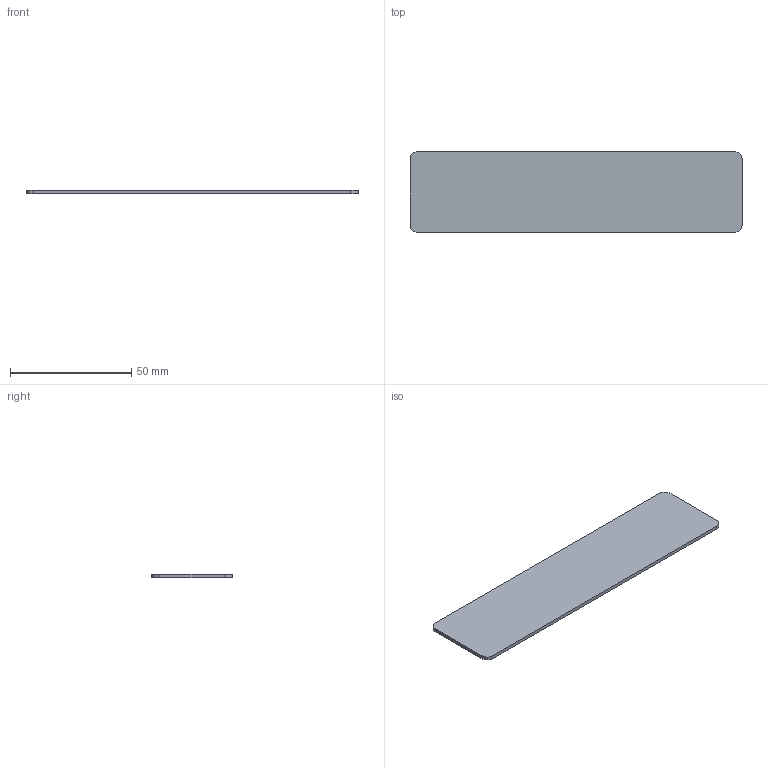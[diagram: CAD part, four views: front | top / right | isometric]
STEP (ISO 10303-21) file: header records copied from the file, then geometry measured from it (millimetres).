
FILE_DESCRIPTION(('Open CASCADE Model'),'2;1');
FILE_NAME('Open CASCADE Shape Model','2026-11-03T14:22:04',('Author'),( 'Open CASCADE'),'Open CASCADE STEP processor 8.0','build123d', 'Unknown');
FILE_SCHEMA(('AUTOMOTIVE_DESIGN { 1 0 10303 214 1 1 1 1 }'));
Length unit declared in the file: millimetre
Products named in the file (1): COMPOUND
Bounding box: 136.75 x 33.25 x 1.5 mm (x, y, z)
Volume: 6808.8 mm3; surface area: 9580.7 mm2
Topology: 1 solids, 1 shells, 10 faces, 24 edges, 16 vertices
Faces by surface type: plane 6, cylinder 4
Entity records: 630 total; most frequent: CARTESIAN_POINT 123, DIRECTION 98, LINE 56, VECTOR 56, ORIENTED_EDGE 48, PCURVE 48, DEFINITIONAL_REPRESENTATION 48, EDGE_CURVE 24
